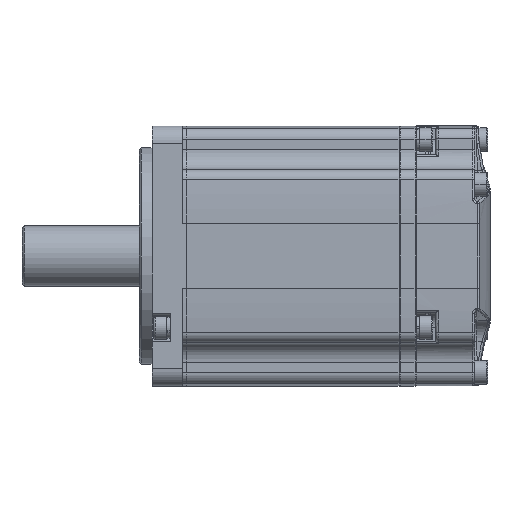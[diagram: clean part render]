
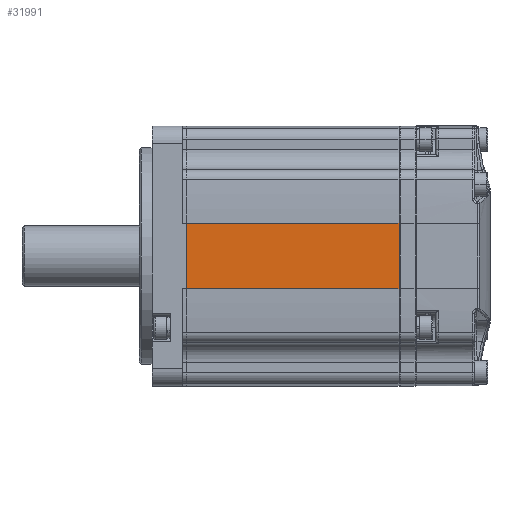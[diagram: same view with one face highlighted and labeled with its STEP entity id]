
A CAD part, front view. The second image highlights one B-rep face of the part: STEP entity #31991.
In plain terms, the highlighted planar face has unit normal (0, -1, 0).
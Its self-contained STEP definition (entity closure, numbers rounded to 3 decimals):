
#42 = VERTEX_POINT ( 'NONE', #30467 ) ;
#717 = DIRECTION ( 'NONE',  ( 0., 1., 0. ) ) ;
#2068 = CARTESIAN_POINT ( 'NONE',  ( 7.5, -30., 49. ) ) ;
#3774 = CARTESIAN_POINT ( 'NONE',  ( -7.5, -30., 0. ) ) ;
#5897 = DIRECTION ( 'NONE',  ( 1., 0., 0. ) ) ;
#8550 = ORIENTED_EDGE ( 'NONE', *, *, #41963, .F. ) ;
#8968 = FACE_OUTER_BOUND ( 'NONE', #58310, .T. ) ;
#9652 = CARTESIAN_POINT ( 'NONE',  ( -7.5, -30., 49. ) ) ;
#25904 = EDGE_CURVE ( 'NONE', #42, #30037, #39318, .T. ) ;
#26252 = VECTOR ( 'NONE', #41402, 1000. ) ;
#26563 = ORIENTED_EDGE ( 'NONE', *, *, #25904, .F. ) ;
#26656 = VECTOR ( 'NONE', #43112, 1000. ) ;
#27202 = CARTESIAN_POINT ( 'NONE',  ( -7.5, -30., 49. ) ) ;
#27308 = EDGE_CURVE ( 'NONE', #43688, #35795, #45293, .T. ) ;
#30037 = VERTEX_POINT ( 'NONE', #62818 ) ;
#30467 = CARTESIAN_POINT ( 'NONE',  ( 7.5, -30., 49. ) ) ;
#31991 = ADVANCED_FACE ( 'NONE', ( #8968 ), #59595, .F. ) ;
#32119 = ORIENTED_EDGE ( 'NONE', *, *, #27308, .T. ) ;
#32230 = AXIS2_PLACEMENT_3D ( 'NONE', #54689, #717, #35165 ) ;
#33012 = ORIENTED_EDGE ( 'NONE', *, *, #43366, .T. ) ;
#35165 = DIRECTION ( 'NONE',  ( -1., 0., 0. ) ) ;
#35442 = CARTESIAN_POINT ( 'NONE',  ( -7.5, -30., 0. ) ) ;
#35795 = VERTEX_POINT ( 'NONE', #35442 ) ;
#39318 = LINE ( 'NONE', #2068, #26252 ) ;
#40288 = CARTESIAN_POINT ( 'NONE',  ( -7.5, -30., 49. ) ) ;
#41402 = DIRECTION ( 'NONE',  ( 0., 0., -1. ) ) ;
#41426 = LINE ( 'NONE', #40288, #52991 ) ;
#41963 = EDGE_CURVE ( 'NONE', #43688, #42, #41426, .T. ) ;
#43112 = DIRECTION ( 'NONE',  ( 1., 0., 0. ) ) ;
#43366 = EDGE_CURVE ( 'NONE', #35795, #30037, #52808, .T. ) ;
#43688 = VERTEX_POINT ( 'NONE', #27202 ) ;
#45293 = LINE ( 'NONE', #9652, #46856 ) ;
#46856 = VECTOR ( 'NONE', #48777, 1000. ) ;
#48777 = DIRECTION ( 'NONE',  ( 0., 0., -1. ) ) ;
#52808 = LINE ( 'NONE', #3774, #26656 ) ;
#52991 = VECTOR ( 'NONE', #5897, 1000. ) ;
#54689 = CARTESIAN_POINT ( 'NONE',  ( -7.5, -30., 49. ) ) ;
#58310 = EDGE_LOOP ( 'NONE', ( #33012, #26563, #8550, #32119 ) ) ;
#59595 = PLANE ( 'NONE',  #32230 ) ;
#62818 = CARTESIAN_POINT ( 'NONE',  ( 7.5, -30., 0. ) ) ;
